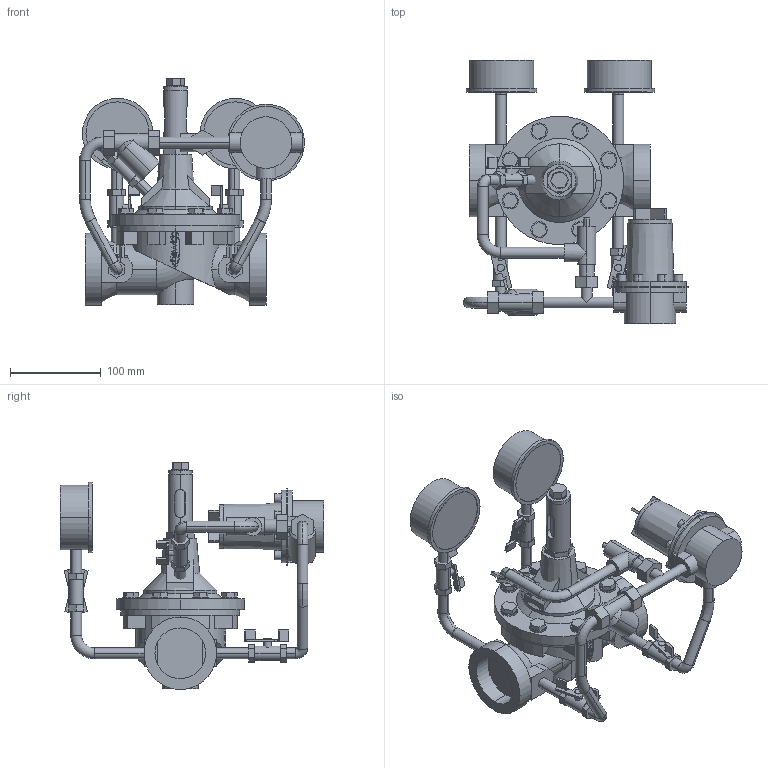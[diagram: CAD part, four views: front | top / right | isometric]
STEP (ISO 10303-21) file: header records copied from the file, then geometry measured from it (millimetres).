
FILE_DESCRIPTION(('STEP AP214'),'1');
FILE_NAME('S:/EK/USER/CAT6/3DHomepage_27-04-2012/neu_28-03-2013/1400/1400_PN16_DN40_IG.STP','2013-04-08T08:54:24',(' '),(' '),'Spatial InterOp 3D',' ',' ');
FILE_SCHEMA(('automotive_design'));
Length unit declared in the file: millimetre
Products named in the file (173): 3D-Objekt
Bounding box: 248.45 x 290.92 x 250.8 mm (x, y, z)
Volume: 2273810.8 mm3; surface area: 500830.3 mm2
Topology: 173 solids, 173 shells, 1189 faces, 2537 edges, 1694 vertices
Faces by surface type: plane 840, cylinder 314, torus 20, cone 15
Entity records: 57337 total; most frequent: CARTESIAN_POINT 17385, DIRECTION 5953, ORIENTED_EDGE 5074, EDGE_CURVE 2537, AXIS2_PLACEMENT_3D 2085, LINE 1783, VECTOR 1783, VERTEX_POINT 1694
